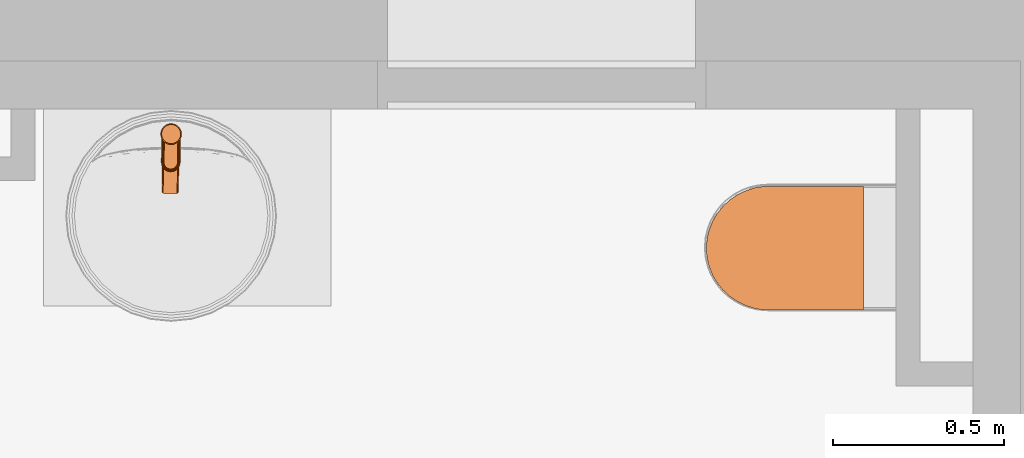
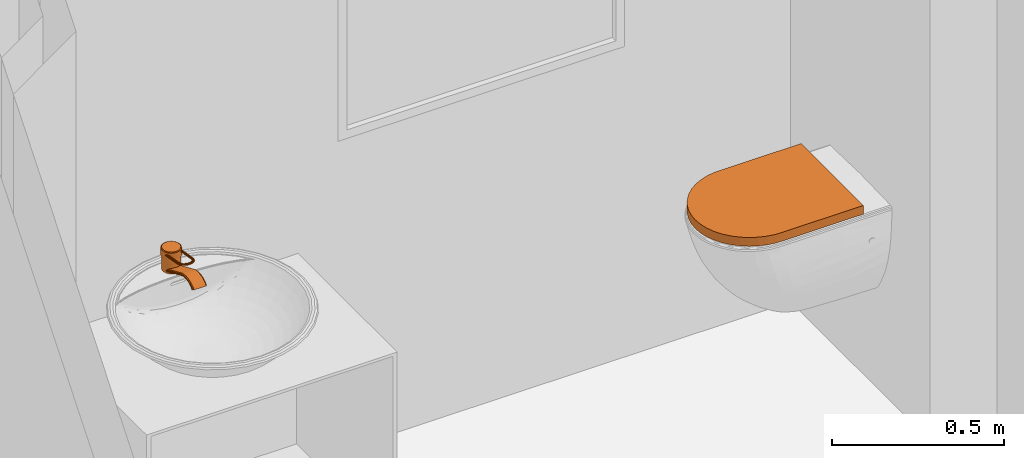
# Not in any storey, part 3 of 3: 2 proxies.
"""IFC4 model written with IfcOpenShell, lengths in metres."""

from ifc_helpers import new_model, si_unit, direction, origin_with_axes, place, context, subcontext, project, faceted_brep, element, save


model = new_model("IFC4")

# Units and contexts
model_context = context("Model", 3, precision=1e-05, world=origin_with_axes(), true_north=direction((1.0, 0.0)))
body_context = subcontext(model_context, "Body", "Model", "MODEL_VIEW")
ifc_project = project(units=[si_unit("LENGTHUNIT", "METRE"), si_unit("AREAUNIT", "SQUARE_METRE"), si_unit("VOLUMEUNIT", "CUBIC_METRE"), si_unit("MASSUNIT", "GRAM", prefix="KILO"), si_unit("TIMEUNIT", "SECOND"), si_unit("PLANEANGLEUNIT", "RADIAN"), si_unit("SOLIDANGLEUNIT", "STERADIAN")], contexts=[model_context])

# Proxies
placement = place(None, origin_with_axes())
element("IfcBuildingElementProxy", 1, at=placement, PredefinedType="NOTDEFINED", context=body_context, shape_type="Brep", body=[
    faceted_brep([(17.513941, 12.639147, 0.732), (17.513941, 12.639147, 0.701), (17.803177, 12.639147, 0.701), (17.803177, 12.639147, 0.732), (17.803177, 13.000984, 0.701), (17.803177, 13.000984, 0.732), (17.513941, 13.000984, 0.732), (17.486672, 12.996551, 0.732), (17.460373, 12.988265, 0.732), (17.435619, 12.976307, 0.732), (17.412949, 12.960939, 0.732), (17.39286, 12.942496, 0.732), (17.375788, 12.92138, 0.732), (17.362108, 12.898052, 0.732), (17.352117, 12.873022, 0.732), (17.346034, 12.846836, 0.732), (17.343991, 12.820066, 0.732), (17.346034, 12.793295, 0.732), (17.352117, 12.767109, 0.732), (17.362108, 12.742079, 0.732), (17.375788, 12.718751, 0.732), (17.39286, 12.697635, 0.732), (17.412949, 12.679192, 0.732), (17.435619, 12.663824, 0.732), (17.460373, 12.651866, 0.732), (17.486672, 12.64358, 0.732), (17.486672, 12.64358, 0.701), (17.460373, 12.651866, 0.701), (17.435619, 12.663824, 0.701), (17.412949, 12.679192, 0.701), (17.39286, 12.697635, 0.701), (17.375788, 12.718751, 0.701), (17.362108, 12.742079, 0.701), (17.352117, 12.767109, 0.701), (17.346034, 12.793295, 0.701), (17.343991, 12.820066, 0.701), (17.346034, 12.846836, 0.701), (17.352117, 12.873022, 0.701), (17.362108, 12.898052, 0.701), (17.375788, 12.92138, 0.701), (17.39286, 12.942496, 0.701), (17.412949, 12.960939, 0.701), (17.435619, 12.976307, 0.701), (17.460373, 12.988265, 0.701), (17.486672, 12.996551, 0.701), (17.513941, 13.000984, 0.701)], [[[0, 1, 2, 3]], [[2, 4, 5, 3]], [[5, 6, 7, 8, 9, 10, 11, 12, 13, 14, 15, 16, 17, 18, 19, 20, 21, 22, 23, 24, 25, 0, 3]], [[2, 1, 26, 27, 28, 29, 30, 31, 32, 33, 34, 35, 36, 37, 38, 39, 40, 41, 42, 43, 44, 45, 4]], [[4, 45, 6, 5]], [[0, 25, 26, 1]], [[25, 24, 27, 26]], [[24, 23, 28, 27]], [[23, 22, 29, 28]], [[22, 21, 30, 29]], [[21, 20, 31, 30]], [[20, 19, 32, 31]], [[19, 18, 33, 32]], [[18, 17, 34, 33]], [[17, 16, 35, 34]], [[16, 15, 36, 35]], [[15, 14, 37, 36]], [[14, 13, 38, 37]], [[13, 12, 39, 38]], [[12, 11, 40, 39]], [[11, 10, 41, 40]], [[10, 9, 42, 41]], [[9, 8, 43, 42]], [[8, 7, 44, 43]], [[7, 6, 45, 44]]]),
])
element("IfcBuildingElementProxy", 2, at=placement, PredefinedType="NOTDEFINED", context=body_context, shape_type="AdvancedBrep", body=[
    faceted_brep([(15.765001, 13.126819, 0.955354), (15.772435, 13.12374, 0.955354), (15.772435, 13.12374, 0.980354), (15.765001, 13.126819, 0.980354), (15.780413, 13.12269, 0.955354), (15.780413, 13.12269, 0.980354), (15.795825, 13.126819, 0.955354), (15.802209, 13.131718, 0.955354), (15.802209, 13.131718, 0.980354), (15.795825, 13.126819, 0.980354), (15.750639, 13.145536, 0.955354), (15.753719, 13.138102, 0.955354), (15.753719, 13.138102, 0.980354), (15.750639, 13.145536, 0.980354), (15.749589, 13.153514, 0.955354), (15.749589, 13.153514, 0.980354), (15.800212, 13.133715, 0.982354), (15.804662, 13.139514, 0.982354), (15.807459, 13.146267, 0.982354), (15.808413, 13.153514, 0.982354), (15.807459, 13.160761, 0.982354), (15.804662, 13.167514, 0.982354), (15.800212, 13.173313, 0.982354), (15.794413, 13.177762, 0.982354), (15.78766, 13.18056, 0.982354), (15.780413, 13.181514, 0.982354), (15.773166, 13.18056, 0.982354), (15.766413, 13.177762, 0.982354), (15.760614, 13.173313, 0.982354), (15.756165, 13.167514, 0.982354), (15.753367, 13.160761, 0.982354), (15.752413, 13.153514, 0.982354), (15.753367, 13.146267, 0.982354), (15.756165, 13.139514, 0.982354), (15.760614, 13.133715, 0.982354), (15.766413, 13.129265, 0.982354), (15.773166, 13.126468, 0.982354), (15.780413, 13.125514, 0.982354), (15.78766, 13.126468, 0.982354), (15.794413, 13.129265, 0.982354), (15.788391, 13.12374, 0.955354), (15.788391, 13.12374, 0.980354), (15.758617, 13.17531, 0.955354), (15.753719, 13.168926, 0.955354), (15.753719, 13.168926, 0.980354), (15.758617, 13.17531, 0.980354), (15.807108, 13.138102, 0.955354), (15.807108, 13.138102, 0.980354), (15.750639, 13.161492, 0.955354), (15.750639, 13.161492, 0.980354), (15.758617, 13.131718, 0.955354), (15.758634, 13.131717, 0.968434), (15.758617, 13.131718, 0.980354), (15.780413, 13.184338, 0.955354), (15.772435, 13.183288, 0.955354), (15.772435, 13.183288, 0.980354), (15.780413, 13.184338, 0.980354), (15.811237, 13.153514, 0.955354), (15.810187, 13.161492, 0.955354), (15.810187, 13.161492, 0.980354), (15.811237, 13.153514, 0.980354), (15.802209, 13.17531, 0.955354), (15.795825, 13.180208, 0.955354), (15.795825, 13.180208, 0.980354), (15.802209, 13.17531, 0.980354), (15.807108, 13.168926, 0.955354), (15.807108, 13.168926, 0.980354), (15.765001, 13.180208, 0.955354), (15.765001, 13.180208, 0.980354), (15.810187, 13.145536, 0.955354), (15.810187, 13.145536, 0.980354), (15.788391, 13.183288, 0.955354), (15.788391, 13.183288, 0.980354), (15.760614, 13.133715, 0.949607), (15.756165, 13.139514, 0.949607), (15.756165, 13.139514, 0.905167), (15.760614, 13.133715, 0.905167), (15.753367, 13.146267, 0.949607), (15.753367, 13.146267, 0.905167), (15.794413, 13.129265, 0.949607), (15.78766, 13.126468, 0.949607), (15.78766, 13.126468, 0.905167), (15.794413, 13.129265, 0.905167), (15.780413, 13.125514, 0.949607), (15.780413, 13.125514, 0.905167), (15.773166, 13.126468, 0.949607), (15.773166, 13.126468, 0.905167), (15.766413, 13.129265, 0.949607), (15.766413, 13.129265, 0.905167), (15.780413, 13.181514, 0.949607), (15.78766, 13.18056, 0.949607), (15.78766, 13.18056, 0.905167), (15.780413, 13.181514, 0.905167), (15.773166, 13.18056, 0.949607), (15.773166, 13.18056, 0.905167), (15.766413, 13.177762, 0.949607), (15.766413, 13.177762, 0.905167), (15.752413, 13.153514, 0.949607), (15.753367, 13.160761, 0.949607), (15.753367, 13.160761, 0.905167), (15.752413, 13.153514, 0.905167), (15.756165, 13.167514, 0.949607), (15.756165, 13.167514, 0.905167), (15.760614, 13.173313, 0.949607), (15.760614, 13.173313, 0.905167), (15.794413, 13.177762, 0.949607), (15.800212, 13.173313, 0.949607), (15.800212, 13.173313, 0.905167), (15.794413, 13.177762, 0.905167), (15.804662, 13.167514, 0.949607), (15.807459, 13.160761, 0.949607), (15.807459, 13.160761, 0.905167), (15.804662, 13.167514, 0.905167), (15.808413, 13.153514, 0.949607), (15.808413, 13.153514, 0.905167), (15.807459, 13.146267, 0.949607), (15.807459, 13.146267, 0.905167), (15.804662, 13.139514, 0.949607), (15.804662, 13.139514, 0.905167), (15.800212, 13.133715, 0.949607), (15.800212, 13.133715, 0.905167), (15.787413, 13.179638, 0.954162), (15.793936, 13.176936, 0.954162), (15.780413, 13.18056, 0.954162), (15.786689, 13.176936, 0.958407), (15.792538, 13.174514, 0.958407), (15.780413, 13.177762, 0.958407), (15.799538, 13.172638, 0.954162), (15.79756, 13.17066, 0.958407), (15.803836, 13.167037, 0.954162), (15.806538, 13.160514, 0.954162), (15.801413, 13.165638, 0.958407), (15.803836, 13.15979, 0.958407), (15.807459, 13.153514, 0.954162), (15.806538, 13.146514, 0.954162), (15.804662, 13.153514, 0.958407), (15.803836, 13.147238, 0.958407), (15.803836, 13.139991, 0.954162), (15.801413, 13.141389, 0.958407), (15.799538, 13.134389, 0.954162), (15.79756, 13.136367, 0.958407), (15.792538, 13.132514, 0.958407), (15.793936, 13.130091, 0.954162), (15.786689, 13.130091, 0.958407), (15.787413, 13.127389, 0.954162), (15.780413, 13.129265, 0.958407), (15.780413, 13.126468, 0.954162), (15.774137, 13.130091, 0.958407), (15.773413, 13.127389, 0.954162), (15.761289, 13.134389, 0.954162), (15.756991, 13.139991, 0.954162), (15.76689, 13.130091, 0.954162), (15.768289, 13.132514, 0.958407), (15.763267, 13.136367, 0.958407), (15.759413, 13.141389, 0.958407), (15.754289, 13.146514, 0.954162), (15.756991, 13.147238, 0.958407), (15.756165, 13.153514, 0.958407), (15.753367, 13.153514, 0.954162), (15.756991, 13.167037, 0.954162), (15.761289, 13.172638, 0.954162), (15.754289, 13.160514, 0.954162), (15.759413, 13.165638, 0.958407), (15.763267, 13.17066, 0.958407), (15.756991, 13.15979, 0.958407), (15.76689, 13.176936, 0.954162), (15.773413, 13.179638, 0.954162), (15.768289, 13.174514, 0.958407), (15.774137, 13.176936, 0.958407), (15.802162, 13.141516, 0.971731), (15.800613, 13.141153, 0.970673), (15.799446, 13.070712, 0.983871), (15.800994, 13.070977, 0.984947), (15.805189, 13.070637, 0.984986), (15.803096, 13.07095, 0.985355), (15.802188, 13.065016, 0.986472), (15.80422, 13.064307, 0.986177), (15.806678, 13.069058, 0.981036), (15.807257, 13.069545, 0.982492), (15.806227, 13.062819, 0.983757), (15.805665, 13.062439, 0.982281), (15.807852, 13.13996, 0.967751), (15.808432, 13.140483, 0.969201), (15.806303, 13.139597, 0.966693), (15.80513, 13.068793, 0.97996), (15.800033, 13.14063, 0.969223), (15.800579, 13.140088, 0.967771), (15.799412, 13.069647, 0.980969), (15.798867, 13.070225, 0.982415), (15.806712, 13.070123, 0.983938), (15.805699, 13.063503, 0.985183), (15.804161, 13.062464, 0.98115), (15.803028, 13.06882, 0.979552), (15.80212, 13.062887, 0.980668), (15.800935, 13.069133, 0.979921), (15.800088, 13.063596, 0.980963), (15.798609, 13.0644, 0.981956), (15.804199, 13.139491, 0.96631), (15.807886, 13.141025, 0.970653), (15.806362, 13.141442, 0.97172), (15.804266, 13.141621, 0.972114), (15.802104, 13.139671, 0.966705), (15.800146, 13.06544, 0.985989), (15.801535, 13.058316, 0.987314), (15.799722, 13.059515, 0.987515), (15.795868, 13.054821, 0.988416), (15.797337, 13.053203, 0.988294), (15.802853, 13.057153, 0.986388), (15.798403, 13.051734, 0.987427), (15.798643, 13.065464, 0.984858), (15.79808, 13.065084, 0.983382), (15.796055, 13.060564, 0.984239), (15.796558, 13.060813, 0.985741), (15.803323, 13.056338, 0.984987), (15.798782, 13.050808, 0.986048), (15.799655, 13.057387, 0.981711), (15.801477, 13.056473, 0.982287), (15.797279, 13.051361, 0.983267), (15.795802, 13.052694, 0.982611), (15.797901, 13.060429, 0.98694), (15.79439, 13.056153, 0.98776), (15.797843, 13.058586, 0.981913), (15.796525, 13.059749, 0.982839), (15.802819, 13.056089, 0.983486), (15.79837, 13.050671, 0.984525), (15.794332, 13.054311, 0.982733), (15.793266, 13.05578, 0.9836), (15.792888, 13.056707, 0.984979), (15.793299, 13.056844, 0.986502), (15.790887, 13.051254, 0.989111), (15.791912, 13.049319, 0.989051), (15.792654, 13.047617, 0.98823), (15.792913, 13.046605, 0.986867), (15.789853, 13.052905, 0.988393), (15.792621, 13.046554, 0.985328), (15.789055, 13.052765, 0.984188), (15.788795, 13.053777, 0.985551), (15.791855, 13.047478, 0.984025), (15.790821, 13.049128, 0.983307), (15.789796, 13.051063, 0.983366), (15.785995, 13.045082, 0.988742), (15.786117, 13.044018, 0.987389), (15.785963, 13.044019, 0.985839), (15.785574, 13.045086, 0.984507), (15.785055, 13.046932, 0.98375), (15.785119, 13.049058, 0.989554), (15.784599, 13.050904, 0.988797), (15.778986, 13.050288, 0.988943), (15.778956, 13.048382, 0.989715), (15.784544, 13.049063, 0.98377), (15.784178, 13.050908, 0.984562), (15.784056, 13.051972, 0.985915), (15.789087, 13.053828, 0.98709), (15.78421, 13.051971, 0.987465), (15.78563, 13.046927, 0.989534), (15.778918, 13.046191, 0.989709), (15.778882, 13.044302, 0.988927), (15.778851, 13.043239, 0.986025), (15.778864, 13.04435, 0.984682), (15.778894, 13.046256, 0.98391), (15.778932, 13.048448, 0.983916), (15.779, 13.051399, 0.9876), (15.778968, 13.050336, 0.984698), (15.778993, 13.051417, 0.986047), (15.778857, 13.043221, 0.987579), (15.773397, 13.051099, 0.988822), (15.77282, 13.049272, 0.989582), (15.768968, 13.053114, 0.984233), (15.76816, 13.05144, 0.983415), (15.763734, 13.054844, 0.982802), (15.764859, 13.056274, 0.983664), (15.772235, 13.04716, 0.989564), (15.772759, 13.047146, 0.983778), (15.772182, 13.045319, 0.984538), (15.765984, 13.047928, 0.984083), (15.767068, 13.049541, 0.98336), (15.773344, 13.049258, 0.983795), (15.77378, 13.051089, 0.984586), (15.767128, 13.051667, 0.989165), (15.766036, 13.049769, 0.98911), (15.771799, 13.045329, 0.988774), (15.773811, 13.052152, 0.987488), (15.768998, 13.054177, 0.987135), (15.768212, 13.053281, 0.988442), (15.765228, 13.048094, 0.988292), (15.760743, 13.05384, 0.988377), (15.759618, 13.052409, 0.987515), (15.762268, 13.055405, 0.988492), (15.771628, 13.04427, 0.987422), (15.764921, 13.047092, 0.986931), (15.773951, 13.052148, 0.985938), (15.769275, 13.054116, 0.985595), (15.765198, 13.047031, 0.98539), (15.759196, 13.051496, 0.986138), (15.759588, 13.051346, 0.984613), (15.760691, 13.051998, 0.98335), (15.762209, 13.053278, 0.982687), (15.771768, 13.044266, 0.985872), (15.763786, 13.056686, 0.987829), (15.760418, 13.061081, 0.987024), (15.758571, 13.060231, 0.987609), (15.760368, 13.059238, 0.981998), (15.758513, 13.058103, 0.981804), (15.756232, 13.063686, 0.980771), (15.75829, 13.064323, 0.981057), (15.75484, 13.057181, 0.985097), (15.755351, 13.057979, 0.986496), (15.752717, 13.064425, 0.985303), (15.752152, 13.06376, 0.98388), (15.762244, 13.061152, 0.984316), (15.761734, 13.060354, 0.982917), (15.759805, 13.065075, 0.982044), (15.76037, 13.06574, 0.983467), (15.761763, 13.061418, 0.985819), (15.759834, 13.06614, 0.984946), (15.75834, 13.066167, 0.986083), (15.75629, 13.065815, 0.986575), (15.757677, 13.071731, 0.985045), (15.755579, 13.071777, 0.985463), (15.756716, 13.059095, 0.987415), (15.754231, 13.065177, 0.98629), (15.753473, 13.071537, 0.985103), (15.751924, 13.071076, 0.984062), (15.751346, 13.070518, 0.982619), (15.752688, 13.063361, 0.982401), (15.751895, 13.070011, 0.98116), (15.756666, 13.057253, 0.982388), (15.764889, 13.057338, 0.986566), (15.755321, 13.056915, 0.983594), (15.754181, 13.063333, 0.981263), (15.765282, 13.057187, 0.985042), (15.759754, 13.070905, 0.982503), (15.759176, 13.070347, 0.98106), (15.760343, 13.140788, 0.967862), (15.76092, 13.14131, 0.969312), (15.757627, 13.069886, 0.980019), (15.755521, 13.069647, 0.979659), (15.756692, 13.140318, 0.966418), (15.758795, 13.140424, 0.966803), (15.753423, 13.069692, 0.980077), (15.759205, 13.071412, 0.983962), (15.760372, 13.141853, 0.970764), (15.752521, 13.141455, 0.969327), (15.753069, 13.140913, 0.967875), (15.758845, 13.142269, 0.971829), (15.756749, 13.142448, 0.972221), (15.754646, 13.142342, 0.971837), (15.753098, 13.141978, 0.970777), (15.754596, 13.140497, 0.96681), (15.796453, 13.142647, 0.906391), (15.800534, 13.143091, 0.90696), (15.798988, 13.05239, 0.94718), (15.794907, 13.05195, 0.946609), (15.763869, 13.143057, 0.906391), (15.762323, 13.05236, 0.946609), (15.759913, 13.149997, 0.914318), (15.756909, 13.148683, 0.912764), (15.755362, 13.057942, 0.953001), (15.758366, 13.059245, 0.954561), (15.755208, 13.048909, 0.956918), (15.758208, 13.049961, 0.958586), (15.759804, 13.143603, 0.90696), (15.758258, 13.052902, 0.94718), (15.754239, 13.056125, 0.95087), (15.755299, 13.05428, 0.94874), (15.755157, 13.045931, 0.95236), (15.754091, 13.047434, 0.954639), (15.800643, 13.149484, 0.914318), (15.796579, 13.15003, 0.914888), (15.795032, 13.059274, 0.955131), (15.799096, 13.058732, 0.954561), (15.803539, 13.144404, 0.908515), (15.804662, 13.146236, 0.910639), (15.803115, 13.05551, 0.95087), (15.801993, 13.053693, 0.94874), (15.75812, 13.044804, 0.950692), (15.762448, 13.059684, 0.955132), (15.762288, 13.050309, 0.959197), (15.794872, 13.049901, 0.959196), (15.763995, 13.15044, 0.914888), (15.798938, 13.049451, 0.958585), (15.802055, 13.057354, 0.953001), (15.801901, 13.048324, 0.956917), (15.756846, 13.144992, 0.908515), (15.802967, 13.046822, 0.954638), (15.801851, 13.045346, 0.952359), (15.755786, 13.146851, 0.910639), (15.803602, 13.148096, 0.912764), (15.794771, 13.043946, 0.95008), (15.79885, 13.044294, 0.950691), (15.798708, 13.035837, 0.952745), (15.794631, 13.035683, 0.952087), (15.755006, 13.036938, 0.954544), (15.757978, 13.036342, 0.952747), (15.757829, 13.027458, 0.953447), (15.754848, 13.027497, 0.955288), (15.753928, 13.037716, 0.956999), (15.753757, 13.027514, 0.957803), (15.755032, 13.038466, 0.959454), (15.754849, 13.027504, 0.960318), (15.758023, 13.038989, 0.961251), (15.757831, 13.027469, 0.962159), (15.7621, 13.039143, 0.961909), (15.794684, 13.038739, 0.961907), (15.761904, 13.02742, 0.962832), (15.794488, 13.027021, 0.96283), (15.802804, 13.03711, 0.956997), (15.801725, 13.037888, 0.959452), (15.801543, 13.026931, 0.960315), (15.802634, 13.026914, 0.9578), (15.801699, 13.036359, 0.954542), (15.801542, 13.026925, 0.955285), (15.79856, 13.026959, 0.953444), (15.794487, 13.027008, 0.952771), (15.762047, 13.036087, 0.952089), (15.761902, 13.027407, 0.952773), (15.798753, 13.038484, 0.961249), (15.798561, 13.02697, 0.962156), (15.762186, 13.044354, 0.950081), (15.802465, 13.016717, 0.95701), (15.801386, 13.017488, 0.954554), (15.798371, 13.015453, 0.961264), (15.801361, 13.015972, 0.959466), (15.802306, 13.006999, 0.954664), (15.801238, 13.008495, 0.952383), (15.757683, 13.018573, 0.952759), (15.761759, 13.018726, 0.9521), (15.761623, 13.010454, 0.950103), (15.757544, 13.010106, 0.950714), (15.757641, 13.015947, 0.961266), (15.754668, 13.016538, 0.959469), (15.754497, 13.00609, 0.956946), (15.757461, 13.004968, 0.958616), (15.753429, 13.007586, 0.954665), (15.754545, 13.009056, 0.952384), (15.754413, 13.000927, 0.948874), (15.753287, 12.998802, 0.950872), (15.753589, 13.01731, 0.957013), (15.794295, 13.0153, 0.961922), (15.754692, 13.018054, 0.954557), (15.794112, 13.004131, 0.959226), (15.798191, 13.004479, 0.958615), (15.794343, 13.018331, 0.952098), (15.801191, 13.005529, 0.956945), (15.798413, 13.018079, 0.952756), (15.798274, 13.009617, 0.950713), (15.76171, 13.015695, 0.961924), (15.761528, 13.004522, 0.959227), (15.794208, 13.010063, 0.950102), (15.75742, 13.002457, 0.947411), (15.754344, 12.996651, 0.95287), (15.7573, 12.99505, 0.954332), (15.761503, 13.002982, 0.946876), (15.801038, 12.996096, 0.952871), (15.802164, 12.998221, 0.950873), (15.801107, 13.000372, 0.948875), (15.802046, 12.990798, 0.945816), (15.800998, 12.993503, 0.944195), (15.761228, 12.985894, 0.949054), (15.757167, 12.986663, 0.948619), (15.757073, 12.980629, 0.942199), (15.761133, 12.979802, 0.942573), (15.798151, 13.001973, 0.947412), (15.757317, 12.995989, 0.943005), (15.754304, 12.994053, 0.944191), (15.761364, 12.994429, 0.954868), (15.798048, 12.995509, 0.943009), (15.794087, 13.002594, 0.946877), (15.753169, 12.991374, 0.945812), (15.798031, 12.994566, 0.954333), (15.793986, 12.996278, 0.942574), (15.761402, 12.996662, 0.942571), (15.757235, 12.990694, 0.937371), (15.754219, 12.988602, 0.938391), (15.754217, 12.988669, 0.947432), (15.753081, 12.985709, 0.939785), (15.754125, 12.982791, 0.941178), (15.793949, 12.994042, 0.954869), (15.797897, 12.986183, 0.948623), (15.800911, 12.988118, 0.947436), (15.793813, 12.985509, 0.949056), (15.793718, 12.979419, 0.942577), (15.797803, 12.98015, 0.942204), (15.800819, 12.982242, 0.941184), (15.76132, 12.991424, 0.936998), (15.793905, 12.991041, 0.937003), (15.797965, 12.990215, 0.937377), (15.800913, 12.988053, 0.938397), (15.801957, 12.985135, 0.939791), (15.793559, 12.988721, 0.938117), (15.761611, 12.989096, 0.938113), (15.758508, 12.988541, 0.938396), (15.756633, 12.98724, 0.939031), (15.756013, 12.985667, 0.939789), (15.756579, 12.984086, 0.940543), (15.758402, 12.982749, 0.941174), (15.761479, 12.982123, 0.941458), (15.793428, 12.981747, 0.941462), (15.79653, 12.982302, 0.941179), (15.798406, 12.983603, 0.940545), (15.799025, 12.985177, 0.939787), (15.798459, 12.986757, 0.939032), (15.796637, 12.988094, 0.938401)], [[[0, 1, 2, 3]], [[1, 4, 5, 2]], [[6, 7, 8, 9]], [[10, 11, 12, 13]], [[14, 10, 13, 15]], [[16, 17, 18, 19, 20, 21, 22, 23, 24, 25, 26, 27, 28, 29, 30, 31, 32, 33, 34, 35, 36, 37, 38, 39]], [[4, 40, 41, 5]], [[42, 43, 44, 45]], [[7, 46, 47, 8]], [[43, 48, 49, 44]], [[48, 14, 15, 49]], [[11, 50, 51, 52, 12]], [[50, 0, 3, 52, 51]], [[40, 6, 9, 41]], [[53, 54, 55, 56]], [[57, 58, 59, 60]], [[61, 62, 63, 64]], [[58, 65, 66, 59]], [[65, 61, 64, 66]], [[54, 67, 68, 55]], [[69, 57, 60, 70]], [[62, 71, 72, 63]], [[67, 42, 45, 68]], [[71, 53, 56, 72]], [[46, 69, 70, 47]], [[3, 2, 36, 35]], [[12, 52, 34, 33]], [[52, 3, 35, 34]], [[2, 5, 37, 36]], [[15, 13, 32, 31]], [[44, 49, 30, 29]], [[13, 12, 33, 32]], [[5, 41, 38, 37]], [[49, 15, 31, 30]], [[45, 44, 29, 28]], [[66, 64, 22, 21]], [[64, 63, 23, 22]], [[59, 66, 21, 20]], [[47, 70, 18, 17]], [[60, 59, 20, 19]], [[8, 47, 17, 16]], [[55, 68, 27, 26]], [[9, 8, 16, 39]], [[41, 9, 39, 38]], [[70, 60, 19, 18]], [[63, 72, 24, 23]], [[72, 56, 25, 24]], [[56, 55, 26, 25]], [[68, 45, 28, 27]], [[73, 74, 75, 76]], [[74, 77, 78, 75]], [[79, 80, 81, 82]], [[80, 83, 84, 81]], [[83, 85, 86, 84]], [[85, 87, 88, 86]], [[87, 73, 76, 88]], [[89, 90, 91, 92]], [[93, 89, 92, 94]], [[95, 93, 94, 96]], [[97, 98, 99, 100]], [[98, 101, 102, 99]], [[77, 97, 100, 78]], [[101, 103, 104, 102]], [[103, 95, 96, 104]], [[105, 106, 107, 108]], [[109, 110, 111, 112]], [[110, 113, 114, 111]], [[113, 115, 116, 114]], [[106, 109, 112, 107]], [[115, 117, 118, 116]], [[90, 105, 108, 91]], [[119, 79, 82, 120]], [[117, 119, 120, 118]], [[90, 121, 122, 105]], [[89, 123, 121, 90]], [[121, 124, 125, 122]], [[123, 126, 124, 121]], [[105, 122, 127, 106]], [[122, 125, 128, 127]], [[109, 129, 130, 110]], [[129, 131, 132, 130]], [[127, 128, 131, 129]], [[106, 127, 129, 109]], [[113, 133, 134, 115]], [[133, 135, 136, 134]], [[115, 134, 137, 117]], [[134, 136, 138, 137]], [[130, 132, 135, 133]], [[110, 130, 133, 113]], [[139, 140, 141, 142]], [[117, 137, 139, 119]], [[137, 138, 140, 139]], [[119, 139, 142, 79]], [[142, 141, 143, 144]], [[144, 143, 145, 146]], [[80, 144, 146, 83]], [[146, 145, 147, 148]], [[83, 146, 148, 85]], [[79, 142, 144, 80]], [[73, 149, 150, 74]], [[87, 151, 149, 73]], [[148, 147, 152, 151]], [[85, 148, 151, 87]], [[151, 152, 153, 149]], [[149, 153, 154, 150]], [[155, 156, 157, 158]], [[150, 154, 156, 155]], [[74, 150, 155, 77]], [[77, 155, 158, 97]], [[101, 159, 160, 103]], [[97, 158, 161, 98]], [[159, 162, 163, 160]], [[98, 161, 159, 101]], [[158, 157, 164, 161]], [[161, 164, 162, 159]], [[95, 165, 166, 93]], [[165, 167, 168, 166]], [[103, 160, 165, 95]], [[160, 163, 167, 165]], [[93, 166, 123, 89]], [[166, 168, 126, 123]], [[169, 170, 171, 172]], [[173, 174, 175, 176]], [[177, 178, 179, 180]], [[181, 182, 178, 177]], [[183, 181, 177, 184]], [[185, 186, 187, 188]], [[189, 173, 176, 190]], [[184, 177, 180, 191]], [[192, 184, 191, 193]], [[194, 192, 193, 195]], [[187, 194, 195, 196]], [[197, 183, 184, 192]], [[198, 199, 173, 189]], [[199, 200, 174, 173]], [[200, 169, 172, 174]], [[182, 198, 189, 178]], [[201, 197, 192, 194]], [[170, 185, 188, 171]], [[174, 172, 202, 175]], [[178, 189, 190, 179]], [[186, 201, 194, 187]], [[203, 204, 205, 206]], [[207, 203, 206, 208]], [[209, 210, 211, 212]], [[213, 207, 208, 214]], [[215, 216, 217, 218]], [[204, 219, 220, 205]], [[190, 176, 203, 207]], [[171, 188, 210, 209]], [[188, 187, 196, 210]], [[176, 175, 204, 203]], [[196, 195, 221, 222]], [[216, 223, 224, 217]], [[180, 179, 213, 223]], [[175, 202, 219, 204]], [[222, 221, 225, 226]], [[191, 180, 223, 216]], [[195, 193, 215, 221]], [[212, 211, 227, 228]], [[219, 212, 228, 220]], [[206, 205, 229, 230]], [[208, 206, 230, 231]], [[214, 208, 231, 232]], [[202, 209, 212, 219]], [[172, 171, 209, 202]], [[193, 191, 216, 215]], [[210, 196, 222, 211]], [[223, 213, 214, 224]], [[221, 215, 218, 225]], [[205, 220, 233, 229]], [[224, 214, 232, 234]], [[211, 222, 226, 227]], [[179, 190, 207, 213]], [[227, 226, 235, 236]], [[218, 217, 237, 238]], [[225, 218, 238, 239]], [[232, 231, 240, 241]], [[217, 224, 234, 237]], [[237, 234, 242, 243]], [[238, 237, 243, 244]], [[245, 246, 247, 248]], [[235, 239, 249, 250]], [[236, 235, 250, 251]], [[252, 236, 251, 253]], [[220, 228, 252, 233]], [[240, 254, 255, 256]], [[239, 238, 244, 249]], [[243, 242, 257, 258]], [[249, 244, 259, 260]], [[246, 253, 261, 247]], [[229, 233, 246, 245]], [[230, 229, 245, 254]], [[251, 250, 262, 263]], [[234, 232, 241, 242]], [[241, 240, 256, 264]], [[242, 241, 264, 257]], [[254, 245, 248, 255]], [[228, 227, 236, 252]], [[231, 230, 254, 240]], [[233, 252, 253, 246]], [[250, 249, 260, 262]], [[253, 251, 263, 261]], [[244, 243, 258, 259]], [[248, 247, 265, 266]], [[226, 225, 239, 235]], [[267, 268, 269, 270]], [[255, 248, 266, 271]], [[272, 273, 274, 275]], [[262, 260, 276, 277]], [[271, 266, 278, 279]], [[277, 276, 268, 267]], [[256, 255, 271, 280]], [[259, 258, 273, 272]], [[265, 281, 282, 283]], [[284, 279, 285, 286]], [[279, 278, 287, 285]], [[288, 280, 284, 289]], [[281, 290, 291, 282]], [[260, 259, 272, 276]], [[292, 289, 293, 294]], [[275, 274, 295, 296]], [[274, 292, 294, 295]], [[297, 288, 289, 292]], [[257, 264, 288, 297]], [[273, 297, 292, 274]], [[261, 263, 290, 281]], [[264, 256, 280, 288]], [[280, 271, 279, 284]], [[258, 257, 297, 273]], [[266, 265, 283, 278]], [[276, 272, 275, 268]], [[290, 277, 267, 291]], [[247, 261, 281, 265]], [[278, 283, 298, 287]], [[289, 284, 286, 293]], [[268, 275, 296, 269]], [[263, 262, 277, 290]], [[287, 298, 299, 300]], [[301, 302, 303, 304]], [[305, 306, 307, 308]], [[309, 310, 311, 312]], [[313, 309, 312, 314]], [[299, 313, 314, 315]], [[316, 315, 317, 318]], [[285, 287, 300, 319]], [[307, 320, 321, 322]], [[308, 307, 322, 323]], [[320, 316, 318, 321]], [[324, 308, 323, 325]], [[296, 295, 326, 302]], [[306, 319, 320, 307]], [[293, 286, 306, 305]], [[300, 299, 315, 316]], [[283, 282, 327, 298]], [[298, 327, 313, 299]], [[270, 269, 301, 310]], [[326, 328, 324, 329]], [[302, 326, 329, 303]], [[310, 301, 304, 311]], [[269, 296, 302, 301]], [[328, 305, 308, 324]], [[295, 294, 328, 326]], [[330, 270, 310, 309]], [[291, 267, 270, 330]], [[282, 291, 330, 327]], [[327, 330, 309, 313]], [[286, 285, 319, 306]], [[319, 300, 316, 320]], [[294, 293, 305, 328]], [[331, 332, 333, 334]], [[335, 336, 337, 338, 51]], [[312, 311, 332, 331]], [[303, 329, 339, 336]], [[340, 331, 334, 341]], [[325, 323, 342, 343]], [[332, 335, 51, 338, 333]], [[329, 324, 325, 339]], [[318, 317, 344, 345]], [[314, 312, 331, 340]], [[304, 303, 336, 335]], [[317, 340, 341, 344]], [[311, 304, 335, 332]], [[315, 314, 340, 317]], [[321, 318, 345, 346]], [[323, 322, 347, 342]], [[322, 321, 346, 347]], [[339, 325, 343, 348]], [[336, 339, 348, 337]], [[349, 350, 351, 352]], [[353, 349, 352, 354]], [[355, 356, 357, 358]], [[358, 357, 359, 360]], [[361, 353, 354, 362]], [[363, 364, 365, 366]], [[367, 368, 369, 370]], [[371, 372, 373, 374]], [[364, 362, 375, 365]], [[369, 376, 377, 378]], [[379, 355, 358, 376]], [[370, 369, 378, 380]], [[350, 371, 374, 351]], [[381, 370, 380, 382]], [[383, 361, 362, 364]], [[373, 381, 382, 384]], [[374, 373, 384, 385]], [[356, 386, 363, 357]], [[372, 387, 381, 373]], [[357, 363, 366, 359]], [[376, 358, 360, 377]], [[386, 383, 364, 363]], [[368, 379, 376, 369]], [[387, 367, 370, 381]], [[388, 389, 390, 391]], [[392, 393, 394, 395]], [[396, 392, 395, 397]], [[398, 396, 397, 399]], [[400, 398, 399, 401]], [[378, 377, 402, 403]], [[365, 375, 393, 392]], [[403, 402, 404, 405]], [[406, 407, 408, 409]], [[390, 410, 411, 412]], [[385, 384, 406, 410]], [[391, 390, 412, 413]], [[414, 391, 413, 415]], [[407, 416, 417, 408]], [[384, 382, 407, 406]], [[393, 414, 415, 394]], [[351, 374, 385, 389]], [[402, 400, 401, 404]], [[359, 366, 396, 398]], [[389, 385, 410, 390]], [[382, 380, 416, 407]], [[360, 359, 398, 400]], [[380, 378, 403, 416]], [[362, 354, 418, 375]], [[366, 365, 392, 396]], [[375, 418, 414, 393]], [[416, 403, 405, 417]], [[410, 406, 409, 411]], [[354, 352, 388, 418]], [[377, 360, 400, 402]], [[352, 351, 389, 388]], [[418, 388, 391, 414]], [[411, 409, 419, 420]], [[408, 417, 421, 422]], [[420, 419, 423, 424]], [[425, 426, 427, 428]], [[429, 430, 431, 432]], [[433, 434, 435, 436]], [[399, 397, 437, 430]], [[417, 405, 438, 421]], [[437, 439, 434, 433]], [[397, 395, 439, 437]], [[439, 425, 428, 434]], [[430, 437, 433, 431]], [[421, 438, 440, 441]], [[415, 413, 442, 426]], [[422, 421, 441, 443]], [[444, 420, 424, 445]], [[438, 446, 447, 440]], [[426, 442, 448, 427]], [[434, 428, 449, 435]], [[412, 411, 420, 444]], [[395, 394, 425, 439]], [[431, 433, 436, 450]], [[442, 444, 445, 448]], [[404, 401, 429, 446]], [[413, 412, 444, 442]], [[432, 431, 450, 451]], [[419, 422, 443, 423]], [[405, 404, 446, 438]], [[409, 408, 422, 419]], [[394, 415, 426, 425]], [[446, 429, 432, 447]], [[401, 399, 430, 429]], [[428, 427, 452, 449]], [[423, 443, 453, 454]], [[455, 454, 456, 457]], [[458, 459, 460, 461]], [[445, 424, 455, 462]], [[435, 449, 463, 464]], [[465, 451, 459, 458]], [[462, 455, 457, 466]], [[448, 445, 462, 467]], [[427, 448, 467, 452]], [[436, 435, 464, 468]], [[443, 441, 469, 453]], [[452, 467, 470, 471]], [[449, 452, 471, 463]], [[464, 463, 472, 473]], [[450, 436, 468, 474]], [[474, 468, 475, 476]], [[459, 474, 476, 460]], [[440, 447, 465, 477]], [[453, 469, 478, 479]], [[480, 458, 461, 481]], [[451, 450, 474, 459]], [[447, 432, 451, 465]], [[441, 440, 477, 469]], [[424, 423, 454, 455]], [[469, 477, 480, 478]], [[477, 465, 458, 480]], [[454, 453, 479, 456]], [[468, 464, 473, 475]], [[467, 462, 466, 470]], [[478, 480, 481, 482]], [[479, 478, 482, 483]], [[473, 472, 484, 485, 486, 487, 488, 483, 482, 481, 461, 460, 476, 475], [489, 490, 491, 492, 493, 494, 495, 496, 497, 498, 499, 500, 501, 502]], [[466, 457, 487, 486]], [[471, 470, 485, 484]], [[457, 456, 488, 487]], [[470, 466, 486, 485]], [[463, 471, 484, 472]], [[456, 479, 483, 488]]]),
])

save(model, "model.ifc")
